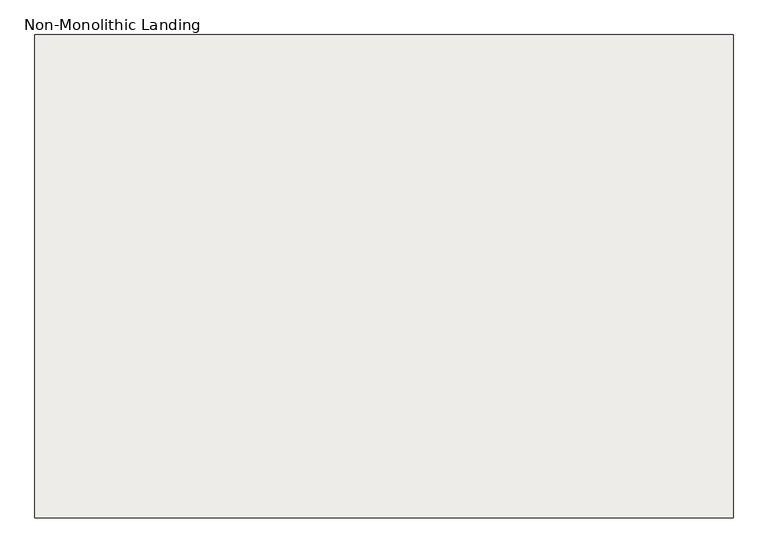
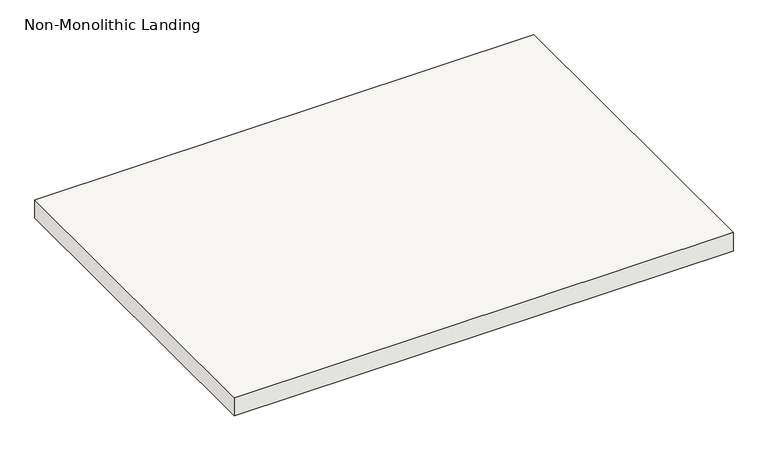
"""IFC4 building model written with IfcOpenShell, lengths in millimetres: slab geometry, Non-Monolithic Landing."""

from ifc_helpers import new_model, si_unit, frame, origin, place, context, project, spatial, polyline, outline, extrude, source, transform, mapped, element, save


def non_monolithic_landing_6adbc8e0(model_context):
    return source(origin(), model_context, "Body", "SweptSolid", [
        extrude(outline(polyline([(88025.1145262, -1486.3855758), (89345.9145262, -1486.3855758), (89345.9145262, -2400.7855758), (88025.1145262, -2400.7855758), (88025.1145262, -1486.3855758)])), frame((0.0, 0.0, 2126.3428571), z_axis=(0.0, 0.0, 1.0), x_axis=(1.0, 0.0, 0.0)), (0.0, 0.0, 1.0), 50.8),
    ])


if __name__ == "__main__":
    model = new_model("IFC4")
    model_context = context("Model", 3, world=origin())
    ifc_project = project(units=[si_unit("LENGTHUNIT", "METRE", prefix="MILLI")], contexts=[model_context])
    site = spatial("IfcSite", under=ifc_project)
    building = spatial("IfcBuilding", under=site)
    placement = place(None, origin())
    non_monolithic_landing_shape = non_monolithic_landing_6adbc8e0(model_context)
    element("IfcSlab", 1, ObjectType="Non-Monolithic Landing", at=placement, inside=building, context=model_context, shape_type="MappedRepresentation", body=[
        mapped(non_monolithic_landing_shape, transform((0.0, 0.0, 0.0), x_axis=(1.0, 0.0, 0.0), y_axis=(0.0, 1.0, 0.0), z_axis=(0.0, 0.0, 1.0))),
    ])
    save(model, "model.ifc")
